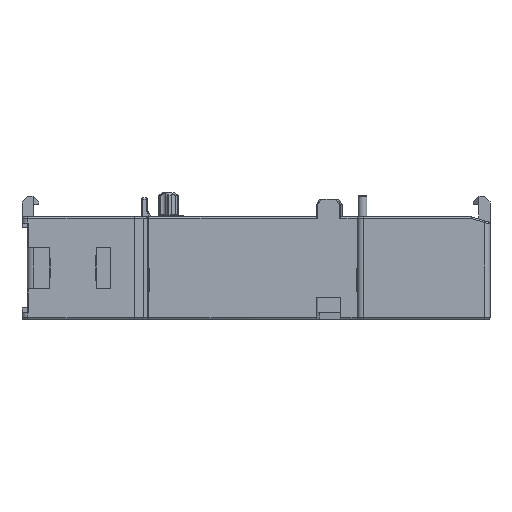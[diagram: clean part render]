
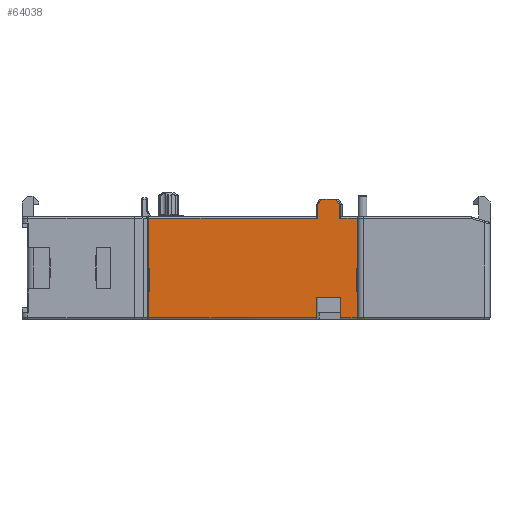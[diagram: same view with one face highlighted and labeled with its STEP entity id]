
A CAD part, front view. The second image highlights one B-rep face of the part: STEP entity #64038.
In plain terms, the highlighted planar face has unit normal (0, -1, 0).
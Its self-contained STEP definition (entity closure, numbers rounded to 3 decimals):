
#1251=DIRECTION('',(0.,0.,1.));
#1252=VECTOR('',#1251,4.55);
#1253=CARTESIAN_POINT('',(9.9,-46.,0.3));
#1254=LINE('',#1253,#1252);
#1267=DIRECTION('',(-1.,0.,0.));
#1268=VECTOR('',#1267,0.1);
#1269=CARTESIAN_POINT('',(9.9,-46.,8.85));
#1270=LINE('',#1269,#1268);
#1299=DIRECTION('',(0.,0.,-1.));
#1300=VECTOR('',#1299,4.);
#1301=CARTESIAN_POINT('',(-26.,-46.,8.85));
#1302=LINE('',#1301,#1300);
#1303=DIRECTION('',(-1.,0.,0.));
#1304=VECTOR('',#1303,0.1);
#1305=CARTESIAN_POINT('',(-26.,-46.,8.85));
#1306=LINE('',#1305,#1304);
#10774=CARTESIAN_POINT('',(6.968,-46.,0.3));
#10784=CARTESIAN_POINT('',(2.805,-46.,0.3));
#16629=DIRECTION('',(0.,0.,-1.));
#16630=VECTOR('',#16629,2.246);
#16631=CARTESIAN_POINT('',(2.992,-46.,19.646));
#16632=LINE('',#16631,#16630);
#16653=DIRECTION('',(1.,0.,0.));
#16654=VECTOR('',#16653,0.1);
#16655=CARTESIAN_POINT('',(-26.1,-46.,4.85));
#16656=LINE('',#16655,#16654);
#16657=DIRECTION('',(0.,0.,-1.));
#16658=VECTOR('',#16657,8.55);
#16659=CARTESIAN_POINT('',(-26.1,-46.,17.4));
#16660=LINE('',#16659,#16658);
#16661=DIRECTION('',(1.,0.,0.));
#16662=VECTOR('',#16661,29.092);
#16663=CARTESIAN_POINT('',(-26.1,-46.,17.4));
#16664=LINE('',#16663,#16662);
#16665=DIRECTION('',(-0.506,0.,-0.863));
#16666=VECTOR('',#16665,1.221);
#16667=CARTESIAN_POINT('',(3.61,-46.,20.7));
#16668=LINE('',#16667,#16666);
#16669=DIRECTION('',(-0.506,0.,0.863));
#16670=VECTOR('',#16669,1.221);
#16671=CARTESIAN_POINT('',(6.851,-46.,19.646));
#16672=LINE('',#16671,#16670);
#16673=DIRECTION('',(1.,0.,0.));
#16674=VECTOR('',#16673,3.049);
#16675=CARTESIAN_POINT('',(6.851,-46.,17.4));
#16676=LINE('',#16675,#16674);
#16677=DIRECTION('',(0.,0.,-1.));
#16678=VECTOR('',#16677,8.55);
#16679=CARTESIAN_POINT('',(9.9,-46.,17.4));
#16680=LINE('',#16679,#16678);
#16681=DIRECTION('',(0.,0.,-1.));
#16682=VECTOR('',#16681,4.);
#16683=CARTESIAN_POINT('',(9.8,-46.,8.85));
#16684=LINE('',#16683,#16682);
#16685=DIRECTION('',(1.,0.,0.));
#16686=VECTOR('',#16685,0.1);
#16687=CARTESIAN_POINT('',(9.8,-46.,4.85));
#16688=LINE('',#16687,#16686);
#16689=DIRECTION('',(-1.,0.,0.));
#16690=VECTOR('',#16689,2.932);
#16691=CARTESIAN_POINT('',(9.9,-46.,0.3));
#16692=LINE('',#16691,#16690);
#16693=DIRECTION('',(0.,0.,1.));
#16694=VECTOR('',#16693,3.5);
#16695=CARTESIAN_POINT('',(6.968,-46.,0.3));
#16696=LINE('',#16695,#16694);
#16697=DIRECTION('',(-1.,0.,0.));
#16698=VECTOR('',#16697,4.163);
#16699=CARTESIAN_POINT('',(6.968,-46.,3.8));
#16700=LINE('',#16699,#16698);
#16701=DIRECTION('',(0.,0.,1.));
#16702=VECTOR('',#16701,3.5);
#16703=CARTESIAN_POINT('',(2.805,-46.,0.3));
#16704=LINE('',#16703,#16702);
#16705=DIRECTION('',(-1.,0.,0.));
#16706=VECTOR('',#16705,28.905);
#16707=CARTESIAN_POINT('',(2.805,-46.,0.3));
#16708=LINE('',#16707,#16706);
#16709=DIRECTION('',(0.,0.,1.));
#16710=VECTOR('',#16709,4.55);
#16711=CARTESIAN_POINT('',(-26.1,-46.,0.3));
#16712=LINE('',#16711,#16710);
#16716=CARTESIAN_POINT('',(3.61,-46.,20.7));
#16762=CARTESIAN_POINT('',(6.233,-46.,20.7));
#16767=DIRECTION('',(1.,0.,0.));
#16768=VECTOR('',#16767,2.623);
#16769=CARTESIAN_POINT('',(3.61,-46.,20.7));
#16770=LINE('',#16769,#16768);
#16914=DIRECTION('',(0.,0.,1.));
#16915=VECTOR('',#16914,2.246);
#16916=CARTESIAN_POINT('',(6.851,-46.,17.4));
#16917=LINE('',#16916,#16915);
#34616=CARTESIAN_POINT('',(-26.1,-46.,4.85));
#34617=VERTEX_POINT('',#34616);
#34618=CARTESIAN_POINT('',(9.9,-46.,4.85));
#34619=VERTEX_POINT('',#34618);
#35055=CARTESIAN_POINT('',(6.968,-46.,3.8));
#35056=CARTESIAN_POINT('',(2.805,-46.,3.8));
#35057=VERTEX_POINT('',#35055);
#35058=VERTEX_POINT('',#35056);
#35984=CARTESIAN_POINT('',(9.9,-46.,0.3));
#35985=VERTEX_POINT('',#35984);
#35989=VERTEX_POINT('',#10774);
#36018=VERTEX_POINT('',#10784);
#36022=CARTESIAN_POINT('',(-26.1,-46.,0.3));
#36023=VERTEX_POINT('',#36022);
#40391=CARTESIAN_POINT('',(9.8,-46.,8.85));
#40393=VERTEX_POINT('',#40391);
#40394=CARTESIAN_POINT('',(-26.,-46.,8.85));
#40396=VERTEX_POINT('',#40394);
#41120=CARTESIAN_POINT('',(-26.1,-46.,17.4));
#41121=VERTEX_POINT('',#41120);
#41124=CARTESIAN_POINT('',(2.992,-46.,17.4));
#41125=VERTEX_POINT('',#41124);
#41140=CARTESIAN_POINT('',(9.9,-46.,17.4));
#41141=VERTEX_POINT('',#41140);
#41677=VERTEX_POINT('',#16716);
#41678=CARTESIAN_POINT('',(2.992,-46.,19.646));
#41679=VERTEX_POINT('',#41678);
#41698=VERTEX_POINT('',#16762);
#41702=CARTESIAN_POINT('',(6.851,-46.,19.646));
#41703=VERTEX_POINT('',#41702);
#41706=CARTESIAN_POINT('',(6.851,-46.,17.4));
#41707=VERTEX_POINT('',#41706);
#42391=CARTESIAN_POINT('',(9.9,-46.,8.85));
#42393=VERTEX_POINT('',#42391);
#42568=CARTESIAN_POINT('',(-26.1,-46.,8.85));
#42569=VERTEX_POINT('',#42568);
#42574=CARTESIAN_POINT('',(9.8,-46.,4.85));
#42575=VERTEX_POINT('',#42574);
#42576=CARTESIAN_POINT('',(-26.,-46.,4.85));
#42577=VERTEX_POINT('',#42576);
#64003=CARTESIAN_POINT('',(-27.1,-46.,1.15));
#64004=DIRECTION('',(0.,-1.,0.));
#64005=DIRECTION('',(1.,0.,0.));
#64006=AXIS2_PLACEMENT_3D('',#64003,#64004,#64005);
#64007=PLANE('',#64006);
#64008=ORIENTED_EDGE('',*,*,#44335,.T.);
#64009=ORIENTED_EDGE('',*,*,#44356,.F.);
#64010=ORIENTED_EDGE('',*,*,#44368,.T.);
#64011=ORIENTED_EDGE('',*,*,#44384,.F.);
#64012=ORIENTED_EDGE('',*,*,#63965,.T.);
#64013=ORIENTED_EDGE('',*,*,#63992,.F.);
#64015=ORIENTED_EDGE('',*,*,#64014,.F.);
#64017=ORIENTED_EDGE('',*,*,#64016,.T.);
#64019=ORIENTED_EDGE('',*,*,#64018,.F.);
#64021=ORIENTED_EDGE('',*,*,#64020,.F.);
#64023=ORIENTED_EDGE('',*,*,#64022,.T.);
#64024=ORIENTED_EDGE('',*,*,#44282,.T.);
#64025=ORIENTED_EDGE('',*,*,#44308,.T.);
#64026=ORIENTED_EDGE('',*,*,#44320,.T.);
#64027=ORIENTED_EDGE('',*,*,#44341,.T.);
#64028=ORIENTED_EDGE('',*,*,#44290,.F.);
#64029=ORIENTED_EDGE('',*,*,#56401,.T.);
#64030=ORIENTED_EDGE('',*,*,#56419,.T.);
#64032=ORIENTED_EDGE('',*,*,#64031,.T.);
#64033=ORIENTED_EDGE('',*,*,#56454,.F.);
#64034=ORIENTED_EDGE('',*,*,#56484,.T.);
#64035=ORIENTED_EDGE('',*,*,#44391,.T.);
#64036=EDGE_LOOP('',(#64008,#64009,#64010,#64011,#64012,#64013,#64015,#64017,
#64019,#64021,#64023,#64024,#64025,#64026,#64027,#64028,#64029,#64030,#64032,
#64033,#64034,#64035));
#64037=FACE_OUTER_BOUND('',#64036,.F.);
#64038=ADVANCED_FACE('',(#64037),#64007,.T.);
#44282=EDGE_CURVE('',#41141,#42393,#16680,.T.);
#44290=EDGE_CURVE('',#35985,#34619,#1254,.T.);
#44308=EDGE_CURVE('',#42393,#40393,#1270,.T.);
#44320=EDGE_CURVE('',#40393,#42575,#16684,.T.);
#44335=EDGE_CURVE('',#34617,#42577,#16656,.T.);
#44341=EDGE_CURVE('',#42575,#34619,#16688,.T.);
#44356=EDGE_CURVE('',#40396,#42577,#1302,.T.);
#44368=EDGE_CURVE('',#40396,#42569,#1306,.T.);
#44384=EDGE_CURVE('',#41121,#42569,#16660,.T.);
#44391=EDGE_CURVE('',#36023,#34617,#16712,.T.);
#56401=EDGE_CURVE('',#35985,#35989,#16692,.T.);
#56419=EDGE_CURVE('',#35989,#35057,#16696,.T.);
#56454=EDGE_CURVE('',#36018,#35058,#16704,.T.);
#56484=EDGE_CURVE('',#36018,#36023,#16708,.T.);
#63965=EDGE_CURVE('',#41121,#41125,#16664,.T.);
#63992=EDGE_CURVE('',#41679,#41125,#16632,.T.);
#64014=EDGE_CURVE('',#41677,#41679,#16668,.T.);
#64016=EDGE_CURVE('',#41677,#41698,#16770,.T.);
#64018=EDGE_CURVE('',#41703,#41698,#16672,.T.);
#64020=EDGE_CURVE('',#41707,#41703,#16917,.T.);
#64022=EDGE_CURVE('',#41707,#41141,#16676,.T.);
#64031=EDGE_CURVE('',#35057,#35058,#16700,.T.);
